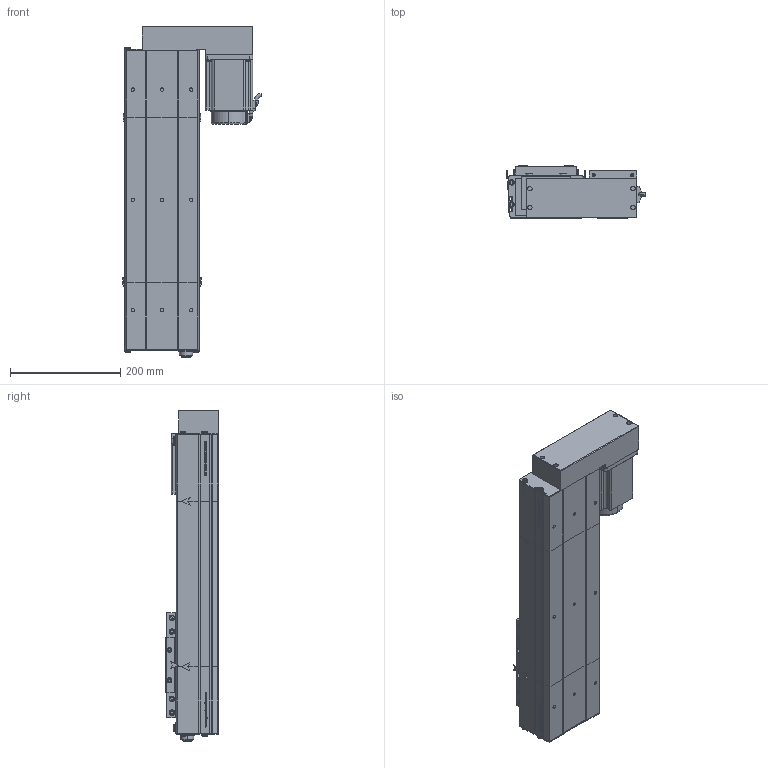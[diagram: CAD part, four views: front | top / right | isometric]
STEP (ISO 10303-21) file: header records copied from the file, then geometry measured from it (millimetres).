
FILE_DESCRIPTION (( 'STEP AP214' ), '1' );
FILE_NAME ('D14 CSH BL S300.STEP', '2010-06-29T15:02:43', ( 'Conseil Régional Haute-Normandie' ), ( 'Conseil Régional Haute-Normandie' ), 'SwSTEP 2.0', 'SolidWorks 2010', '' );
FILE_SCHEMA (( 'AUTOMOTIVE_DESIGN' ));
Products named in the file (26): corps head d14; plaque de bout head D14 BL; D14 CSH BL S300; Vis CHC M8; Head D14 CSH BL; Course CSH S300; avant GMB 90 100 310; Conecteur_Default; vis CHC M5.5; corps GMB 90 100 310; corps tail d14; plaque de maintient D14; GMB 90 100 310; codeur GMB 90 100 310; Tail D14; couvercle CSH course S300; plaque de bout tail d14; Conecteur2_Default; corps  CSH 300; couvercle head d14; chariot D14; chariot supérieur D14; couvercle tail; vis CHC M5; charriot inférieur D14; vis CHC M7
Assembly tree (48 placements, depth 4):
  D14 CSH BL S300
    Head D14 CSH BL
      vis CHC M5.5  x4
      GMB 90 100 310
        codeur GMB 90 100 310
        corps GMB 90 100 310
        Conecteur2_Default
        Conecteur_Default
        avant GMB 90 100 310
      couvercle head d14
      vis CHC M7  x2
      plaque de maintient D14
      plaque de bout head D14 BL
      corps head d14
      Vis CHC M8  x2
    Course CSH S300
      couvercle CSH course S300
      corps  CSH 300
    chariot D14
      vis CHC M5  x4
      vis CHC M7  x8
      chariot supérieur D14
      charriot inférieur D14
    Tail D14
      couvercle tail
      vis CHC M7  x4
      Vis CHC M8  x2
      plaque de maintient D14
      plaque de bout tail d14
      corps tail d14
Bounding box: 250.75 x 95.75 x 601.3 mm (x, y, z)
Volume: 3183955.1 mm3; surface area: 782791.5 mm2
Topology: 49 solids, 49 shells, 2426 faces, 6221 edges, 4100 vertices
Faces by surface type: plane 1375, bspline 538, cylinder 400, torus 61, cone 52
Entity records: 106796 total; most frequent: CARTESIAN_POINT 57861, ORIENTED_EDGE 10694, DIRECTION 7952, EDGE_CURVE 5347, VECTOR 3618, LINE 3618, VERTEX_POINT 3548, EDGE_LOOP 2281
